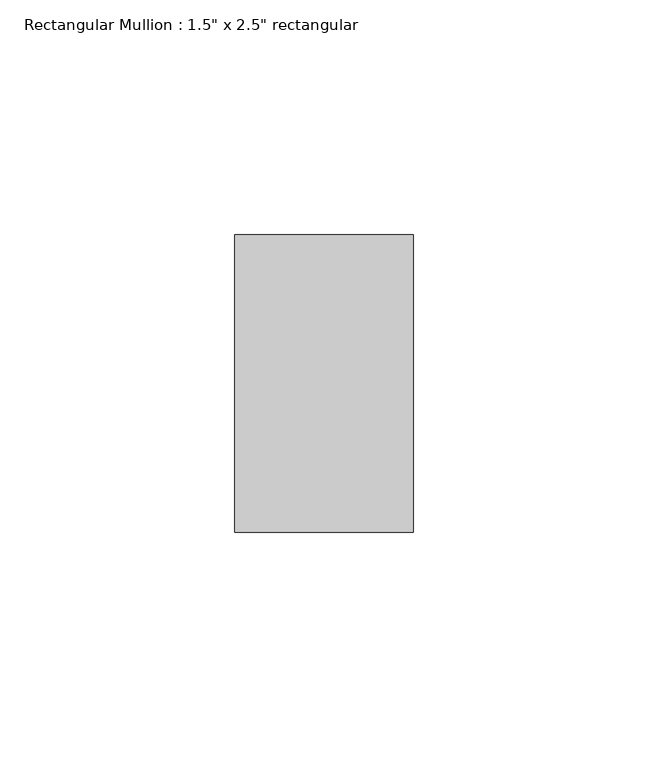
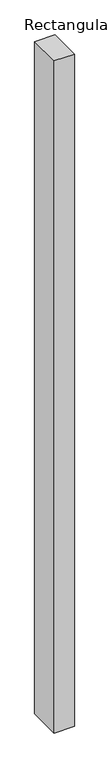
"""IFC4 building model written with IfcOpenShell, lengths in millimetres: member geometry."""

from ifc_helpers import new_model, si_unit, frame, origin, place, context, project, spatial, polyline, outline, extrude, source, transform, mapped, element, save


def member_d2fca8fe(model_context):
    return source(origin(), model_context, "Body", "SweptSolid", [
        extrude(outline(polyline([(19.05, 31.75), (19.05, -31.75), (-19.05, -31.75), (-19.05, 31.75), (19.05, 31.75)])), frame((0.0, 0.0, -1339.0773828), z_axis=(0.0, 0.0, 1.0), x_axis=(1.0, 0.0, 0.0)), (0.0, 0.0, 1.0), 1339.0773828),
    ])


if __name__ == "__main__":
    model = new_model("IFC4")
    model_context = context("Model", 3, world=origin())
    ifc_project = project(units=[si_unit("LENGTHUNIT", "METRE", prefix="MILLI")], contexts=[model_context])
    site = spatial("IfcSite", under=ifc_project)
    building = spatial("IfcBuilding", under=site)
    placement = place(None, origin())
    member_shape = member_d2fca8fe(model_context)
    element("IfcMember", 1, ObjectType="Rectangular Mullion : 1.5\" x 2.5\" rectangular", at=placement, inside=building, context=model_context, shape_type="MappedRepresentation", body=[
        mapped(member_shape, transform((0.0, 0.0, 0.0), x_axis=(1.0, 0.0, 0.0), y_axis=(0.0, 1.0, 0.0), z_axis=(0.0, 0.0, 1.0))),
    ])
    save(model, "model.ifc")
